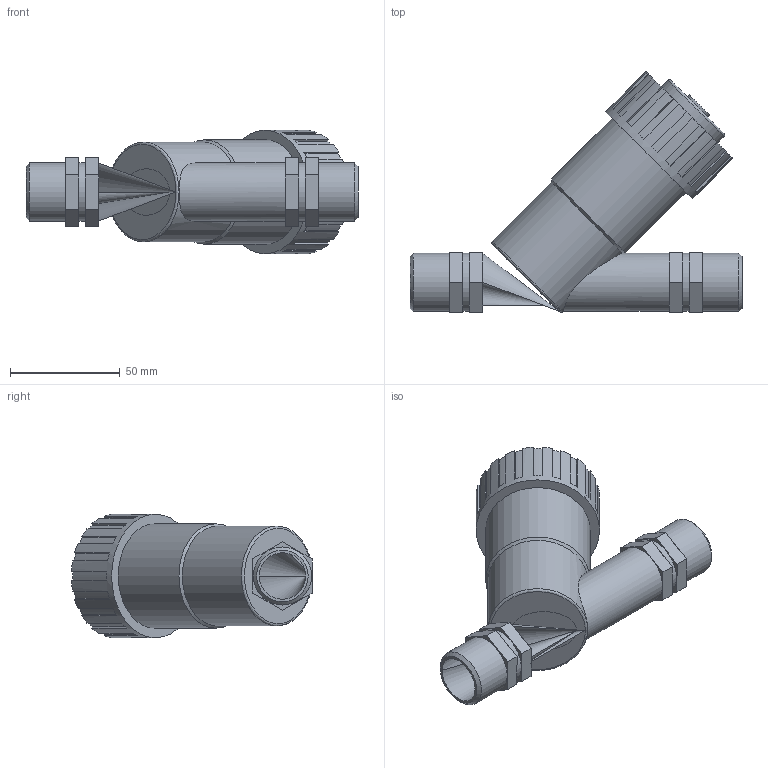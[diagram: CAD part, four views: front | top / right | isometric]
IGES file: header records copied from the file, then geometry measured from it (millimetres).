
Global section: file name: 03067077_030670770A.ipt; native system: Autodesk Inventor 2015; preprocessor: unknown; author: KIM; date: 20170619.121327; units: millimetre
Bounding box: 151 x 109.66 x 56.16 mm (x, y, z)
Volume: 221933.1 mm3; surface area: 41230.8 mm2
Topology: 2 solids, 3 shells, 139 faces, 369 edges, 246 vertices
Faces by surface type: plane 100, cylinder 32, revolution 4, cone 3
Full cylindrical faces by diameter (mm): 12.96 x1, 26.441 x6, 36.288 x1, 45.36 x1, 47.52 x1, 56.16 x1
